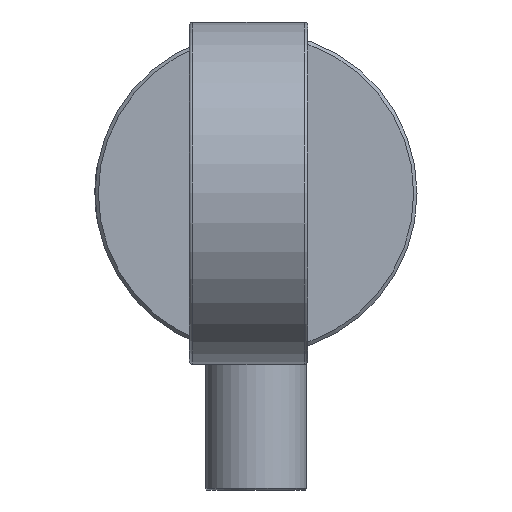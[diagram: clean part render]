
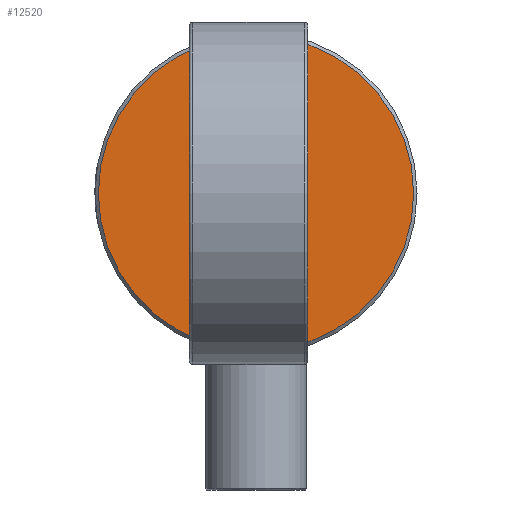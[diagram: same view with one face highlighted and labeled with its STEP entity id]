
A CAD part, front view. The second image highlights one B-rep face of the part: STEP entity #12520.
In plain terms, the highlighted planar face has unit normal (0, -1, 0).
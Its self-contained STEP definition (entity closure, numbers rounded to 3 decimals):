
#1443=PLANE('',#13440);
#1716=FACE_OUTER_BOUND('',#2471,.T.);
#2471=EDGE_LOOP('',(#8669));
#5070=CIRCLE('',#13439,46.5);
#5337=VERTEX_POINT('',#16533);
#6649=EDGE_CURVE('',#5337,#5337,#5070,.T.);
#8669=ORIENTED_EDGE('',*,*,#6649,.F.);
#12520=ADVANCED_FACE('',(#1716),#1443,.T.);
#13439=AXIS2_PLACEMENT_3D('',#16535,#14271,#14272);
#13440=AXIS2_PLACEMENT_3D('',#16536,#14273,#14274);
#14271=DIRECTION('center_axis',(0.,1.,0.));
#14272=DIRECTION('ref_axis',(0.,0.,-1.));
#14273=DIRECTION('center_axis',(0.,-1.,0.));
#14274=DIRECTION('ref_axis',(0.,0.,-1.));
#16533=CARTESIAN_POINT('',(0.,0.,46.5));
#16535=CARTESIAN_POINT('Origin',(0.,0.,0.));
#16536=CARTESIAN_POINT('Origin',(0.,0.,47.5));
